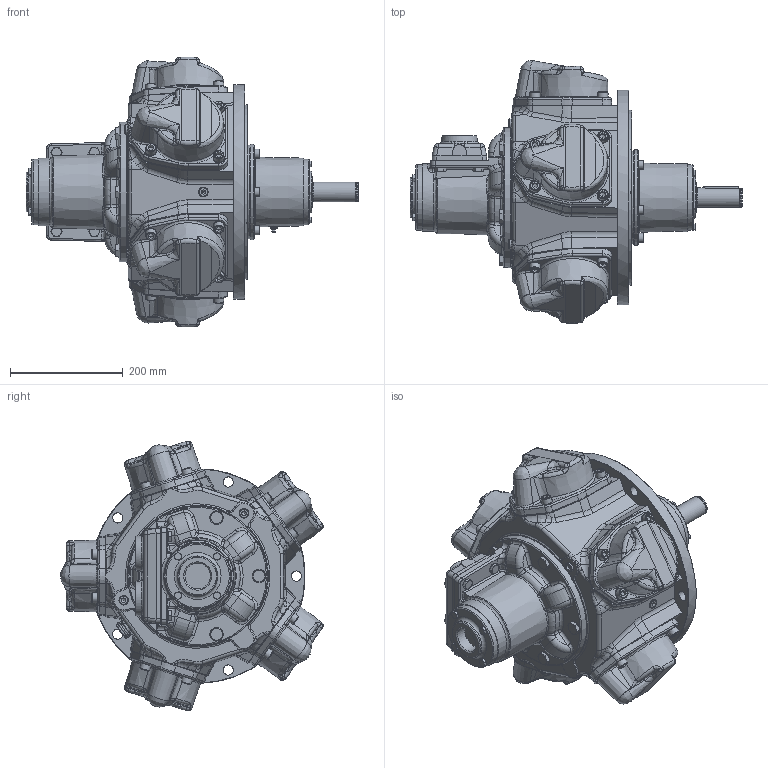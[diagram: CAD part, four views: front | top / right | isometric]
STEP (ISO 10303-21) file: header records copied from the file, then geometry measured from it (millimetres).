
FILE_DESCRIPTION (( 'STEP AP214' ), '1' );
FILE_NAME ('RM510.STEP', '2022-06-22T07:44:26', ( '' ), ( '' ), 'SwSTEP 2.0', 'SolidWorks 2020', '' );
FILE_SCHEMA (( 'AUTOMOTIVE_DESIGN' ));
Length unit declared in the file: millimetre
Products named in the file (1): RM510
Bounding box: 587.81 x 464.97 x 477.62 mm (x, y, z)
Volume: 28567309 mm3; surface area: 816728.8 mm2
Topology: 1 solids, 2 shells, 2671 faces, 6584 edges, 3917 vertices
Faces by surface type: plane 1195, cylinder 455, cone 433, bspline 430, torus 126, sphere 32
Full cylindrical faces by diameter (mm): 2.5 x2, 3.2 x1, 10 x5, 11.9 x4, 16 x15, 17 x14, 18 x25, 20 x20, 21 x5, 24 x5, 35.01 x1, 45.25 x3, 48 x1, 51.398 x1, 62 x1, 125 x1, 165.045 x1, 169 x1, 248 x1, 309.96 x1, 380 x1
Entity records: 108042 total; most frequent: CARTESIAN_POINT 44923, ORIENTED_EDGE 12314, DIRECTION 11160, EDGE_CURVE 6157, AXIS2_PLACEMENT_3D 4328, VERTEX_POINT 3786, EDGE_LOOP 3039, FACE_OUTER_BOUND 2797
